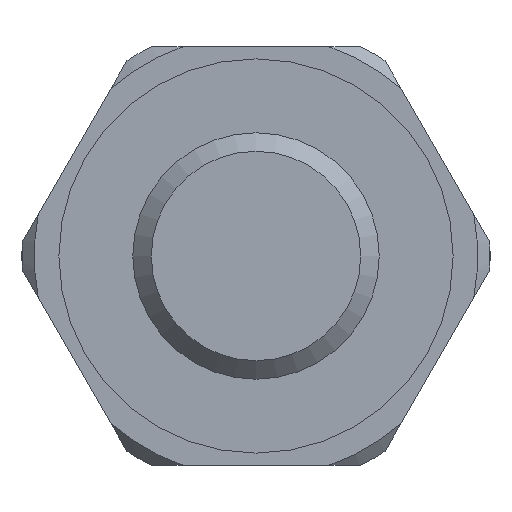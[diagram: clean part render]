
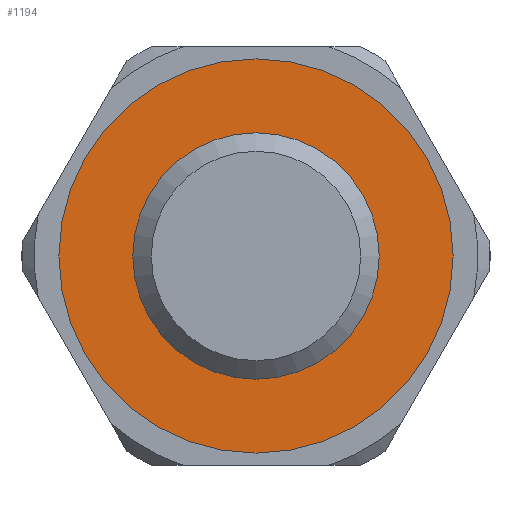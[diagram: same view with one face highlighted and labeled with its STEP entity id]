
A CAD part, left-side view. The second image highlights one B-rep face of the part: STEP entity #1194.
In plain terms, the highlighted planar face has unit normal (-1, 0, 0).
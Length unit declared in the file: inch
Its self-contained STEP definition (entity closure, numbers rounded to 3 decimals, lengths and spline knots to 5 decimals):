
#64=FACE_BOUND('',#207,.T.);
#88=PLANE('',#1325);
#138=FACE_OUTER_BOUND('',#206,.T.);
#206=EDGE_LOOP('',(#929,#930));
#207=EDGE_LOOP('',(#931,#932));
#350=CIRCLE('',#1253,0.1378);
#351=CIRCLE('',#1254,0.1378);
#386=CIRCLE('',#1323,0.31496);
#387=CIRCLE('',#1324,0.31496);
#447=VERTEX_POINT('',#1799);
#448=VERTEX_POINT('',#1800);
#507=VERTEX_POINT('',#2034);
#508=VERTEX_POINT('',#2035);
#567=EDGE_CURVE('',#447,#448,#350,.T.);
#568=EDGE_CURVE('',#448,#447,#351,.T.);
#660=EDGE_CURVE('',#507,#508,#386,.T.);
#661=EDGE_CURVE('',#508,#507,#387,.T.);
#929=ORIENTED_EDGE('',*,*,#660,.T.);
#930=ORIENTED_EDGE('',*,*,#661,.T.);
#931=ORIENTED_EDGE('',*,*,#567,.T.);
#932=ORIENTED_EDGE('',*,*,#568,.T.);
#1194=ADVANCED_FACE('',(#138,#64),#88,.T.);
#1253=AXIS2_PLACEMENT_3D('',#1801,#1426,#1427);
#1254=AXIS2_PLACEMENT_3D('',#1802,#1428,#1429);
#1323=AXIS2_PLACEMENT_3D('',#2036,#1599,#1600);
#1324=AXIS2_PLACEMENT_3D('',#2037,#1601,#1602);
#1325=AXIS2_PLACEMENT_3D('',#2039,#1604,#1605);
#1426=DIRECTION('center_axis',(1.,0.,0.));
#1427=DIRECTION('ref_axis',(0.,0.,1.));
#1428=DIRECTION('center_axis',(1.,0.,0.));
#1429=DIRECTION('ref_axis',(0.,0.,1.));
#1599=DIRECTION('center_axis',(-1.,0.,0.));
#1600=DIRECTION('ref_axis',(0.,0.,1.));
#1601=DIRECTION('center_axis',(-1.,0.,0.));
#1602=DIRECTION('ref_axis',(0.,0.,1.));
#1604=DIRECTION('center_axis',(-1.,0.,0.));
#1605=DIRECTION('ref_axis',(0.,0.,1.));
#1799=CARTESIAN_POINT('',(-2.21862,-0.42833,0.56421));
#1800=CARTESIAN_POINT('',(-2.21862,-0.42833,0.28862));
#1801=CARTESIAN_POINT('Origin',(-2.21862,-0.42833,0.42641));
#1802=CARTESIAN_POINT('Origin',(-2.21862,-0.42833,0.42641));
#2034=CARTESIAN_POINT('',(-2.21862,-0.42833,0.74137));
#2035=CARTESIAN_POINT('',(-2.21862,-0.42833,0.11145));
#2036=CARTESIAN_POINT('Origin',(-2.21862,-0.42833,0.42641));
#2037=CARTESIAN_POINT('Origin',(-2.21862,-0.42833,0.42641));
#2039=CARTESIAN_POINT('Origin',(-2.21862,-0.42833,0.42641));
